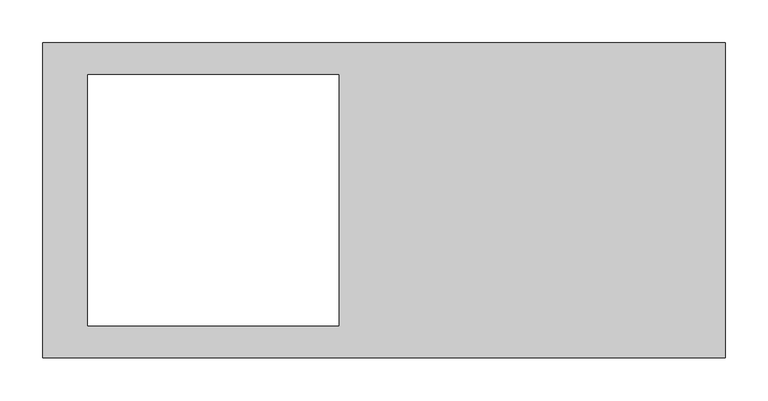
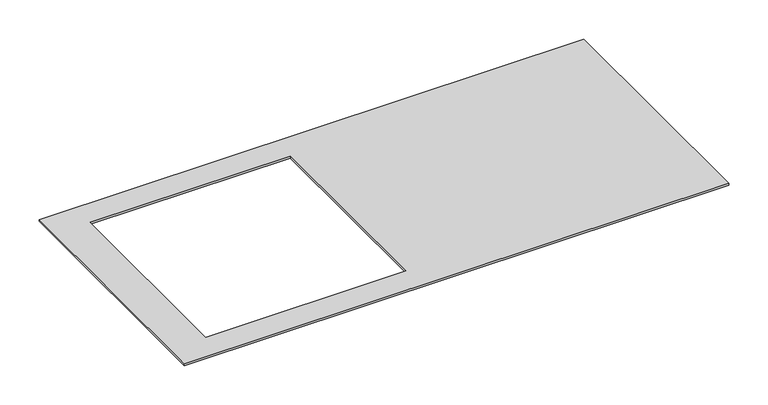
"""IFC4 building model written with IfcOpenShell, lengths in millimetres: proxy geometry, Electrical_Installation_Hager_Cover-Q08-BKA : Electrical_Installation_Hager_Cover-Q08-BKA."""

from ifc_helpers import new_model, si_unit, frame, origin, place, context, project, spatial, polyline, outline, extrude, source, transform, mapped, element, save


def electrical_fixtures_84085685(model_context):
    return source(origin(), model_context, "Body", "SweptSolid", [
        extrude(outline(polyline([(800.0, 184.75), (800.0, -184.75), (0.0, -184.75), (0.0, 184.75), (800.0, 184.75)]), holes=[polyline([(347.0, 147.0), (53.0, 147.0), (53.0, -147.0), (347.0, -147.0), (347.0, 147.0)])]), frame((0.0, 0.0, 10.0), z_axis=(0.0, 0.0, 1.0), x_axis=(1.0, 0.0, 0.0)), (0.0, 0.0, 1.0), 3.0),
    ])


if __name__ == "__main__":
    model = new_model("IFC4")
    model_context = context("Model", 3, world=origin())
    ifc_project = project(units=[si_unit("LENGTHUNIT", "METRE", prefix="MILLI")], contexts=[model_context])
    site = spatial("IfcSite", under=ifc_project)
    building = spatial("IfcBuilding", under=site)
    placement = place(None, origin())
    electrical_fixtures_shape = electrical_fixtures_84085685(model_context)
    element("IfcBuildingElementProxy", 1, Name="Electrical_Installation_Hager_Cover-Q08-BKA : Electrical_Installation_Hager_Cover-Q08-BKA", ObjectType="Electrical_Installation_Hager_Cover-Q08-BKA : Electrical_Installation_Hager_Cover-Q08-BKA", at=placement, inside=building, context=model_context, shape_type="MappedRepresentation", body=[
        mapped(electrical_fixtures_shape, transform((0.0, 0.0, 0.0), x_axis=(1.0, 0.0, 0.0), y_axis=(0.0, 1.0, 0.0), z_axis=(0.0, 0.0, 1.0))),
    ])
    save(model, "model.ifc")
